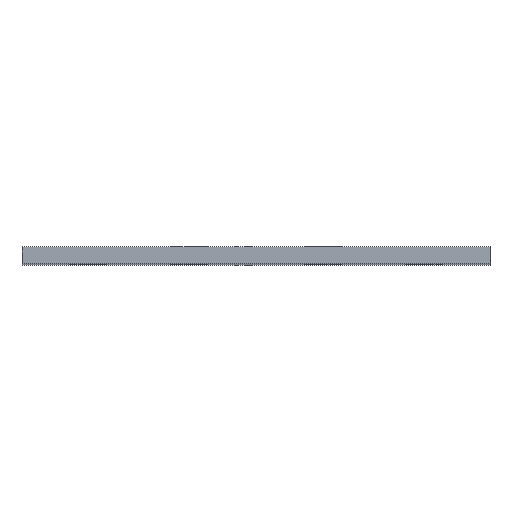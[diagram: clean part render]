
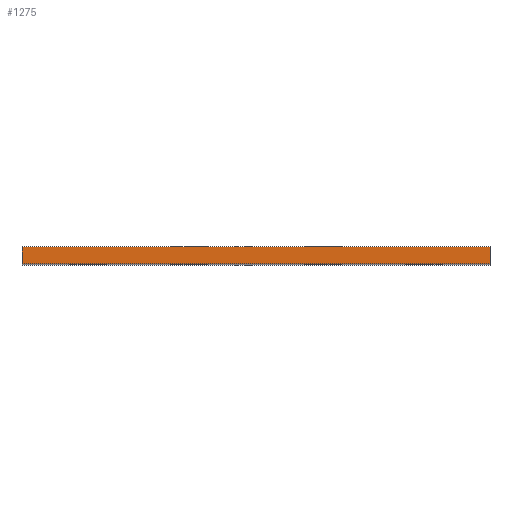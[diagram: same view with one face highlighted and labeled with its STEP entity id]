
A CAD part, top view. The second image highlights one B-rep face of the part: STEP entity #1275.
In plain terms, the highlighted planar face has unit normal (0, 0, 1).
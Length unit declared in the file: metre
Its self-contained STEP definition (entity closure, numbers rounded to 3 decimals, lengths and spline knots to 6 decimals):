
#16=ORIENTED_EDGE('',*,*,#376,.F.);
#17=ORIENTED_EDGE('',*,*,#377,.T.);
#18=ORIENTED_EDGE('',*,*,#372,.T.);
#19=ORIENTED_EDGE('',*,*,#378,.F.);
#372=EDGE_CURVE('',#552,#553,#672,.T.);
#376=EDGE_CURVE('',#556,#557,#676,.T.);
#377=EDGE_CURVE('',#556,#552,#677,.T.);
#378=EDGE_CURVE('',#557,#553,#678,.T.);
#552=VERTEX_POINT('',#1720);
#553=VERTEX_POINT('',#1721);
#556=VERTEX_POINT('',#1729);
#557=VERTEX_POINT('',#1730);
#672=LINE('',#1719,#852);
#676=LINE('',#1728,#856);
#677=LINE('',#1731,#857);
#678=LINE('',#1732,#858);
#852=VECTOR('',#1415,1.);
#856=VECTOR('',#1421,1.);
#857=VECTOR('',#1422,1.);
#858=VECTOR('',#1423,1.);
#1033=EDGE_LOOP('',(#16,#17,#18,#19));
#1123=FACE_BOUND('',#1033,.T.);
#1213=PLANE('',#1350);
#1275=ADVANCED_FACE('',(#1123),#1213,.T.);
#1350=AXIS2_PLACEMENT_3D('',#1727,#1419,#1420);
#1415=DIRECTION('',(0.,-1.,0.));
#1419=DIRECTION('',(0.,0.,1.));
#1420=DIRECTION('',(1.,0.,0.));
#1421=DIRECTION('',(0.,-1.,0.));
#1422=DIRECTION('',(-1.,0.,0.));
#1423=DIRECTION('',(-1.,0.,0.));
#1719=CARTESIAN_POINT('',(-0.0279,-0.027998,0.0579));
#1720=CARTESIAN_POINT('',(-0.0279,-0.028,0.0579));
#1721=CARTESIAN_POINT('',(-0.0279,-0.03,0.0579));
#1727=CARTESIAN_POINT('',(0.,-0.027998,0.0579));
#1728=CARTESIAN_POINT('',(0.0279,-0.027998,0.0579));
#1729=CARTESIAN_POINT('',(0.0279,-0.028,0.0579));
#1730=CARTESIAN_POINT('',(0.0279,-0.03,0.0579));
#1731=CARTESIAN_POINT('',(0.,-0.028,0.0579));
#1732=CARTESIAN_POINT('',(0.,-0.03,0.0579));
